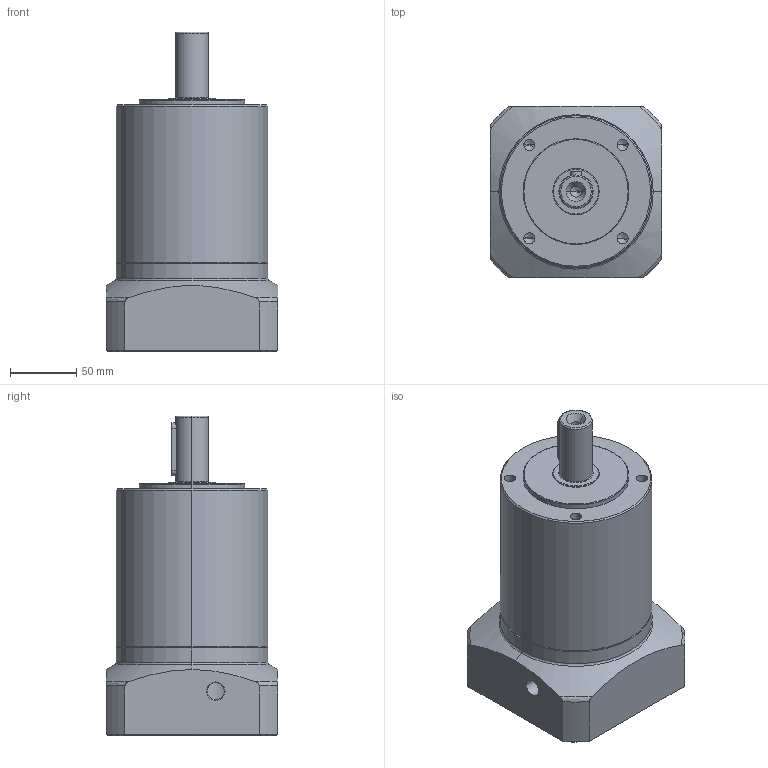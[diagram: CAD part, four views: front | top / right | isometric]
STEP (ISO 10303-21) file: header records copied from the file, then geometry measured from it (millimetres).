
FILE_DESCRIPTION (( 'STEP AP214' ), '1' );
FILE_NAME ('PL120-L3-22×55-110-145M8 三维零件图.STEP', '2021-08-06T06:26:15', ( 'XJJ' ), ( '' ), 'SwSTEP 2.0', 'SolidWorks 2016', '' );
FILE_SCHEMA (( 'AUTOMOTIVE_DESIGN' ));
Length unit declared in the file: millimetre
Products named in the file (3): PL120-L3-22×55-110-145M8 三维零件图; hexagon socket head cap screws gb_GB_FASTENER_SCREWS_HSHCS M10X16-N; PL120-L3-22×60-110-145×M8 三维零件图
Assembly tree (2 placements, depth 2):
  PL120-L3-22×55-110-145M8 三维零件图
    PL120-L3-22×60-110-145×M8 三维零件图
    hexagon socket head cap screws gb_GB_FASTENER_SCREWS_HSHCS M10X16-N
Bounding box: 130 x 130 x 242 mm (x, y, z)
Volume: 2055980.7 mm3; surface area: 137362.9 mm2
Topology: 2 solids, 2 shells, 181 faces, 422 edges, 246 vertices
Faces by surface type: cylinder 64, cone 48, plane 42, torus 27
Entity records: 5957 total; most frequent: CARTESIAN_POINT 1467, DIRECTION 940, ORIENTED_EDGE 804, EDGE_CURVE 402, AXIS2_PLACEMENT_3D 392, VERTEX_POINT 246, EDGE_LOOP 210, CIRCLE 206
